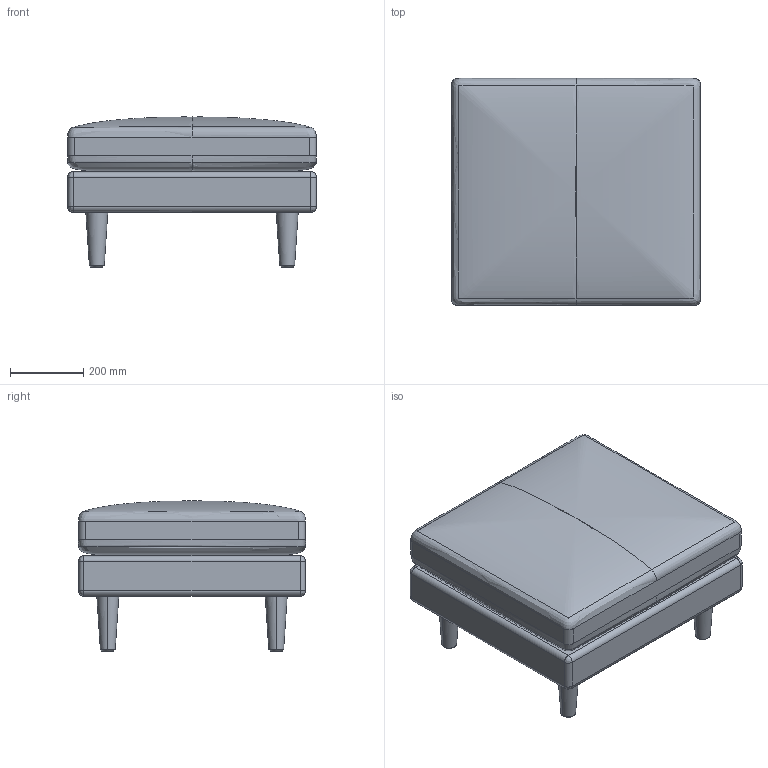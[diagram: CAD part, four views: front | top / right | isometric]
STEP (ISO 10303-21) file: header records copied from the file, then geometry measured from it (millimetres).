
FILE_DESCRIPTION(/* description */ (''),/* implementation_level */ '2;1');
FILE_NAME(/* name */ 'KINOSH~4',/* time_stamp */ '2019-07-19T15:40:51+09:00',/* author */ (''),/* organization */ (''),/* preprocessor_version */ 'ST-DEVELOPER v15',/* originating_system */ '',/* authorisation */ '');
FILE_SCHEMA (('AUTOMOTIVE_DESIGN'));
Length unit declared in the file: millimetre
Products named in the file (1): Document
Bounding box: 680.07 x 620.1 x 410 mm (x, y, z)
Volume: 103222045.9 mm3; surface area: 2290965.9 mm2
Topology: 6 solids, 6 shells, 66 faces, 134 edges, 76 vertices
Faces by surface type: bspline 52, plane 14
Entity records: 23858 total; most frequent: CARTESIAN_POINT 23001, ORIENTED_EDGE 260, EDGE_CURVE 130, B_SPLINE_CURVE_WITH_KNOTS 87, VERTEX_POINT 76, ADVANCED_FACE 66, FACE_OUTER_BOUND 66, EDGE_LOOP 66
